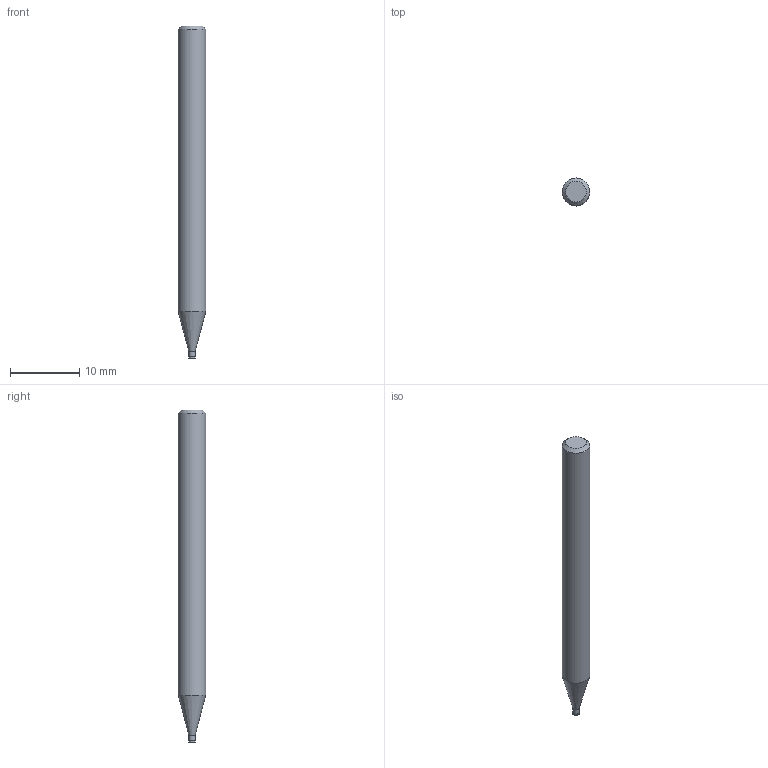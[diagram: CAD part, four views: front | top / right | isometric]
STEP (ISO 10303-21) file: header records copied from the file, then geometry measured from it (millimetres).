
FILE_DESCRIPTION((''),'2;1');
FILE_NAME('C:\Users\nsx150\AppData\Local\Temp\Mastercam 2021\LJSIDMOTM8\TEMP.step','2021-08-03T14:25:59',(''),(''),'STEP Write','Mastercam 2021 ... CNC Software, Inc.','');
FILE_SCHEMA(('AUTOMOTIVE_DESIGN'));
Length unit declared in the file: millimetre
Products named in the file (1): None
Bounding box: 4 x 4 x 48 mm (x, y, z)
Volume: 548.1 mm3; surface area: 577.7 mm2
Topology: 2 solids, 2 shells, 9 faces, 12 edges, 7 vertices
Faces by surface type: plane 4, cylinder 3, cone 2
Full cylindrical faces by diameter (mm): 0.9 x1, 1 x1, 4 x1
Entity records: 211 total; most frequent: DIRECTION 36, CARTESIAN_POINT 25, AXIS2_PLACEMENT_3D 18, ORIENTED_EDGE 14, EDGE_LOOP 14, STYLED_ITEM 12, ADVANCED_FACE 9, FACE_BOUND 8
